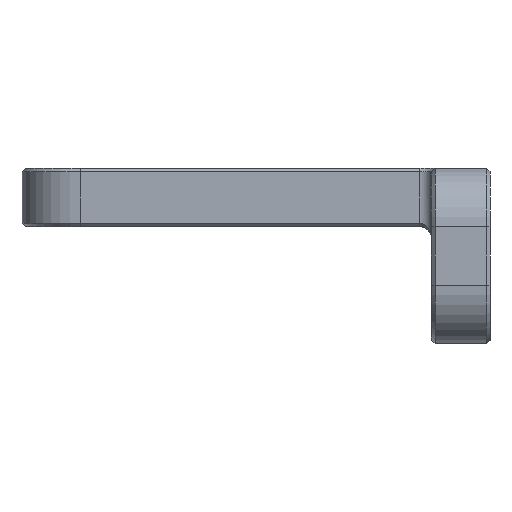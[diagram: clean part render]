
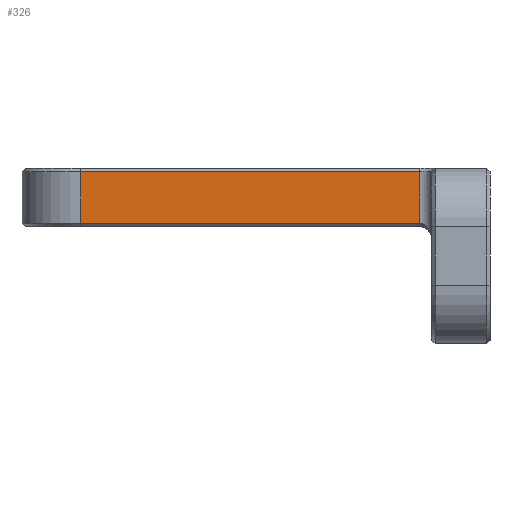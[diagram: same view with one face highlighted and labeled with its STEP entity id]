
A CAD part, front view. The second image highlights one B-rep face of the part: STEP entity #326.
In plain terms, the highlighted planar face has unit normal (0, -1, 0).
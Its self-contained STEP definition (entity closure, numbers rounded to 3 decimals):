
#7 = VECTOR ( 'NONE', #544, 1000. ) ;
#326 = ADVANCED_FACE ( 'NONE', ( #2011 ), #961, .F. ) ;
#423 = LINE ( 'NONE', #2249, #7 ) ;
#434 = ORIENTED_EDGE ( 'NONE', *, *, #3497, .T. ) ;
#544 = DIRECTION ( 'NONE',  ( 1., 0., 0. ) ) ;
#603 = CARTESIAN_POINT ( 'NONE',  ( -17.5, -20., 5. ) ) ;
#961 = PLANE ( 'NONE',  #5632 ) ;
#1047 = DIRECTION ( 'NONE',  ( 0., 0., 1. ) ) ;
#1093 = VERTEX_POINT ( 'NONE', #2967 ) ;
#1353 = CARTESIAN_POINT ( 'NONE',  ( -12.5, -20., 5. ) ) ;
#1383 = EDGE_CURVE ( 'NONE', #1093, #5301, #423, .T. ) ;
#1497 = ORIENTED_EDGE ( 'NONE', *, *, #5442, .T. ) ;
#1555 = VERTEX_POINT ( 'NONE', #3898 ) ;
#1984 = DIRECTION ( 'NONE',  ( 0., 1., 0. ) ) ;
#2011 = FACE_OUTER_BOUND ( 'NONE', #4302, .T. ) ;
#2055 = ORIENTED_EDGE ( 'NONE', *, *, #1383, .T. ) ;
#2249 = CARTESIAN_POINT ( 'NONE',  ( -17.5, -20., 0.3 ) ) ;
#2307 = CARTESIAN_POINT ( 'NONE',  ( 16.5, -20., 5. ) ) ;
#2362 = LINE ( 'NONE', #1353, #3962 ) ;
#2617 = ORIENTED_EDGE ( 'NONE', *, *, #4675, .T. ) ;
#2734 = VERTEX_POINT ( 'NONE', #3131 ) ;
#2967 = CARTESIAN_POINT ( 'NONE',  ( -12.5, -20., 0.3 ) ) ;
#3131 = CARTESIAN_POINT ( 'NONE',  ( 16.5, -20., 4.7 ) ) ;
#3497 = EDGE_CURVE ( 'NONE', #1555, #1093, #2362, .T. ) ;
#3638 = LINE ( 'NONE', #2307, #4530 ) ;
#3791 = CARTESIAN_POINT ( 'NONE',  ( -12.5, -20., 4.7 ) ) ;
#3898 = CARTESIAN_POINT ( 'NONE',  ( -12.5, -20., 4.7 ) ) ;
#3962 = VECTOR ( 'NONE', #5022, 1000. ) ;
#4263 = DIRECTION ( 'NONE',  ( -1., 0., 0. ) ) ;
#4302 = EDGE_LOOP ( 'NONE', ( #434, #2055, #2617, #1497 ) ) ;
#4387 = CARTESIAN_POINT ( 'NONE',  ( 16.5, -20., 0.3 ) ) ;
#4530 = VECTOR ( 'NONE', #5496, 1000. ) ;
#4675 = EDGE_CURVE ( 'NONE', #5301, #2734, #3638, .T. ) ;
#4791 = LINE ( 'NONE', #3791, #4994 ) ;
#4994 = VECTOR ( 'NONE', #4263, 1000. ) ;
#5022 = DIRECTION ( 'NONE',  ( 0., 0., -1. ) ) ;
#5301 = VERTEX_POINT ( 'NONE', #4387 ) ;
#5442 = EDGE_CURVE ( 'NONE', #2734, #1555, #4791, .T. ) ;
#5496 = DIRECTION ( 'NONE',  ( 0., 0., 1. ) ) ;
#5632 = AXIS2_PLACEMENT_3D ( 'NONE', #603, #1984, #1047 ) ;
